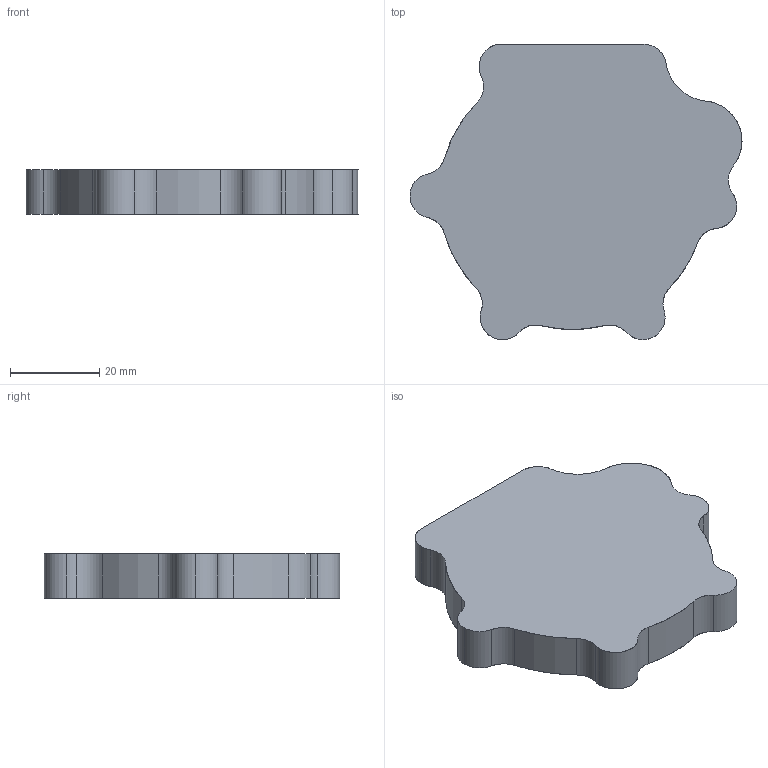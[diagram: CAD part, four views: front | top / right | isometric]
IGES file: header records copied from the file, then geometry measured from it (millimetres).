
Start section: SolidWorks IGES file using analytic representation for surfaces
Global section: file name: E:\Nouveau dossier\tarek\mécaniquee\L3GMCFM\TP0\EX8.IGS; native system: SolidWorks 2013; preprocessor: SolidWorks 2013; author: LENOVO; date: 180920.201125; units: millimetre
Bounding box: 74.5 x 66.28 x 10 mm (x, y, z)
Surface area: 9457.9 mm2 (no closed solid volume)
Topology: 0 solids, 0 shells, 29 faces, 498 edges, 498 vertices
Faces by surface type: revolution 26, bspline 3
